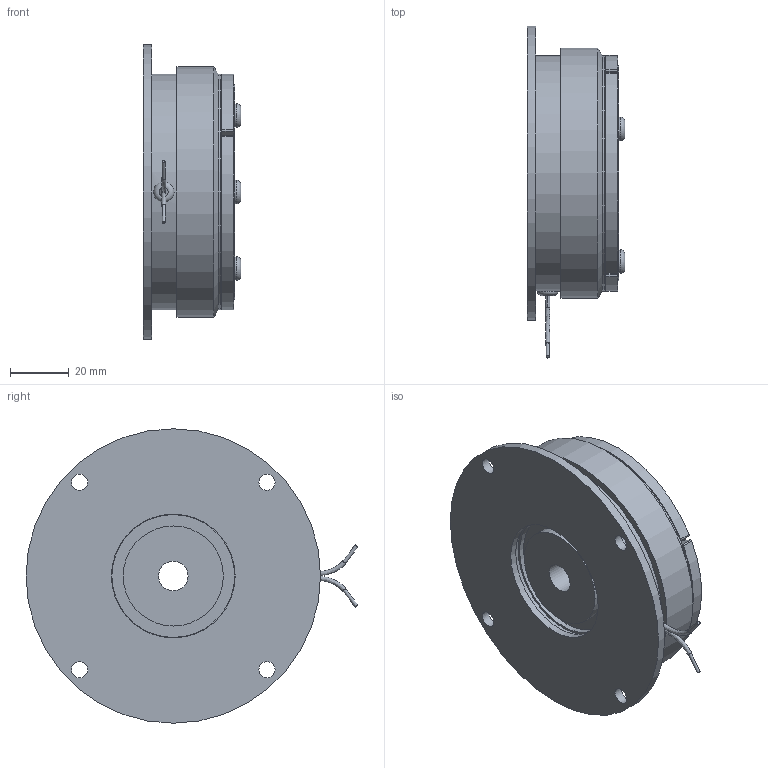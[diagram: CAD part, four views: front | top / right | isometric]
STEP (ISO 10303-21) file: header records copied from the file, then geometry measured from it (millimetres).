
FILE_DESCRIPTION(/* description */ (''),/* implementation_level */ '2;1');
FILE_NAME(/* name */ 'T:\INVENTOR\DISEGNI\08_Freni_Friz_Elettmag_Monodisco\08_20 ESAL\08_20_080_01 ESAL080\08_20_080_01 ESAL 080_B@STEP.stp',/* time_stamp */ '2020-11-11T16:43:43+01:00',/* author */ ('w.sartori'),/* organization */ (''),/* preprocessor_version */ 'ST-DEVELOPER v18.1',/* originating_system */ 'Autodesk Inventor 2021',/* authorisation */ '');
FILE_SCHEMA (('AUTOMOTIVE_DESIGN { 1 0 10303 214 3 1 1 }'));
Length unit declared in the file: millimetre
Products named in the file (1): 08_20_080_01 ESAL 080_B
Bounding box: 33.2 x 112.72 x 100 mm (x, y, z)
Volume: 150246.9 mm3; surface area: 53555.8 mm2
Topology: 3 solids, 6 shells, 228 faces, 496 edges, 301 vertices
Faces by surface type: cylinder 98, plane 68, cone 54, torus 6, bspline 2
Full cylindrical faces by diameter (mm): 1.154 x2, 2.5 x3, 4 x3, 4.1 x6, 5.5 x4, 8 x3, 10 x1, 11 x3, 34 x1, 36 x1, 41.7 x1, 42 x3, 43.5 x1, 47 x1, 53 x1, 73 x2, 80 x2, 80.3 x1, 85 x1, 100 x1
Entity records: 6841 total; most frequent: CARTESIAN_POINT 1355, DIRECTION 1209, ORIENTED_EDGE 992, AXIS2_PLACEMENT_3D 503, EDGE_CURVE 496, VERTEX_POINT 301, EDGE_LOOP 287, CIRCLE 276
